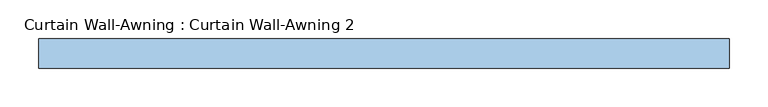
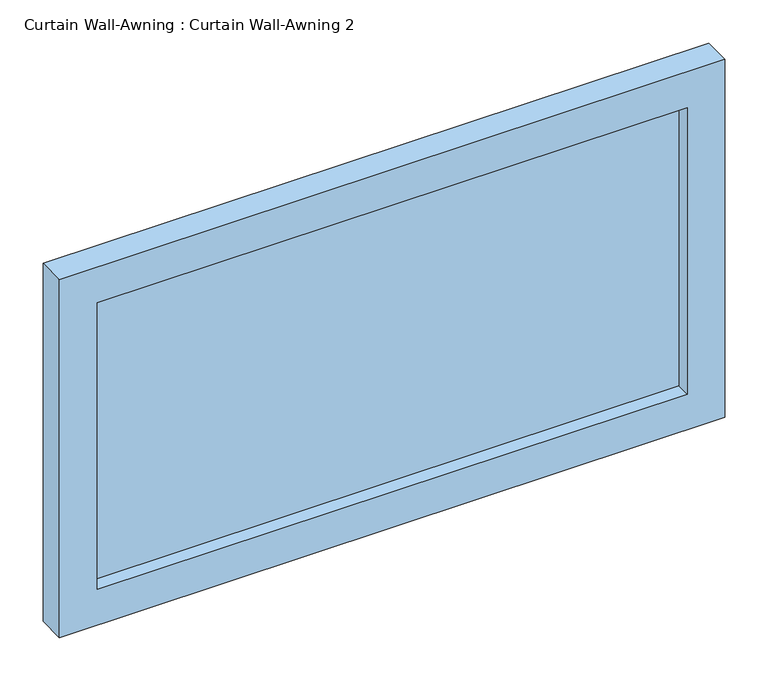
"""IFC4 building model written with IfcOpenShell, lengths in millimetres: window geometry, Curtain Wall-Awning : Curtain Wall-Awning 2."""

from ifc_helpers import new_model, si_unit, frame, origin, place, context, project, spatial, polyline, outline, extrude, source, transform, mapped, element, save


def curtain_wall_awning_curtain_wall_awning_2_f4e35714(model_context):
    return source(origin(), model_context, "Body", "SweptSolid", [
        extrude(outline(polyline([(395.6796269, -19.05), (-395.6796269, -19.05), (-395.6796269, -6.35), (395.6796269, -6.35), (395.6796269, -19.05)])), frame((0.0, 0.0, 50.8), z_axis=(0.0, 0.0, 1.0), x_axis=(1.0, 0.0, 0.0)), (0.0, 0.0, 1.0), 406.2774401),
        extrude(outline(polyline([(507.8774401, -446.4796269), (0.0, -446.4796269), (0.0, 446.4796269), (507.8774401, 446.4796269), (507.8774401, -446.4796269)]), holes=[polyline([(457.0774401, -395.6796269), (457.0774401, 395.6796269), (50.8, 395.6796269), (50.8, -395.6796269), (457.0774401, -395.6796269)])]), frame((0.0, -38.1, 0.0), z_axis=(0.0, 1.0, 0.0), x_axis=(0.0, 0.0, 1.0)), (0.0, 0.0, 1.0), 38.1),
    ])


if __name__ == "__main__":
    model = new_model("IFC4")
    model_context = context("Model", 3, world=origin())
    ifc_project = project(units=[si_unit("LENGTHUNIT", "METRE", prefix="MILLI")], contexts=[model_context])
    site = spatial("IfcSite", under=ifc_project)
    building = spatial("IfcBuilding", under=site)
    placement = place(None, origin())
    curtain_wall_awning_curtain_wall_awning_2_shape = curtain_wall_awning_curtain_wall_awning_2_f4e35714(model_context)
    element("IfcWindow", 1, ObjectType="Curtain Wall-Awning : Curtain Wall-Awning 2", at=placement, inside=building, context=model_context, shape_type="MappedRepresentation", body=[
        mapped(curtain_wall_awning_curtain_wall_awning_2_shape, transform((0.0, 0.0, 0.0), x_axis=(1.0, 0.0, 0.0), y_axis=(0.0, 1.0, 0.0), z_axis=(0.0, 0.0, 1.0))),
    ])
    save(model, "model.ifc")
